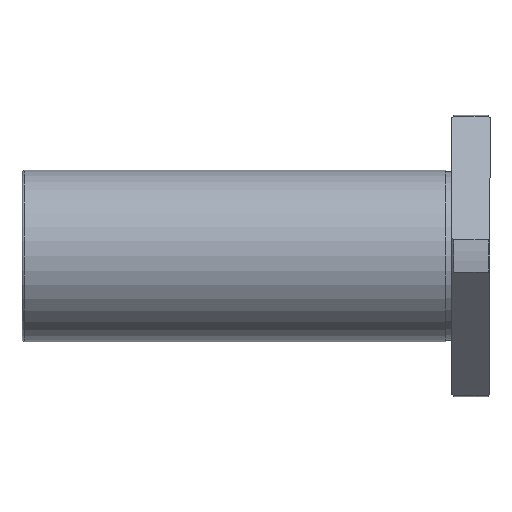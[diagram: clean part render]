
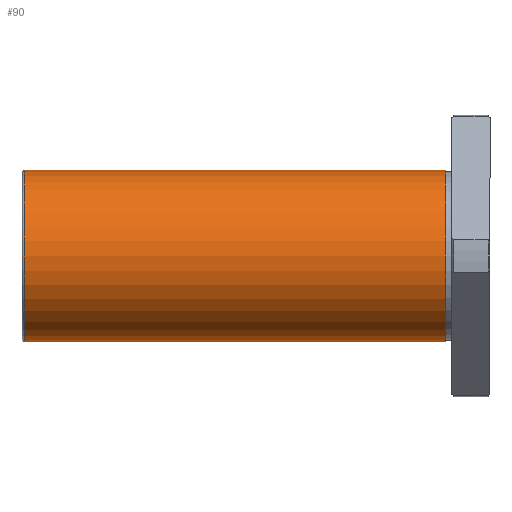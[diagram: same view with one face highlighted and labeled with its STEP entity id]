
A CAD part, front view. The second image highlights one B-rep face of the part: STEP entity #90.
In plain terms, the highlighted cylindrical face has radius 22.5 mm (diameter 45 mm), a full revolution.
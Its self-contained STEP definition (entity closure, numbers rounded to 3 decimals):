
#90=ADVANCED_FACE('',(#154,#155),#156,.T.);
#154=FACE_OUTER_BOUND('',#254,.T.);
#155=FACE_OUTER_BOUND('',#255,.T.);
#156=CYLINDRICAL_SURFACE('',#256,22.5);
#254=EDGE_LOOP('',(#424));
#255=EDGE_LOOP('',(#425));
#256=AXIS2_PLACEMENT_3D('',#426,#427,#428);
#424=ORIENTED_EDGE('',*,*,#616,.T.);
#425=ORIENTED_EDGE('',*,*,#615,.F.);
#426=CARTESIAN_POINT('',(-37.5,0.0,0.));
#427=DIRECTION('',(-1.0,-0.0,0.));
#428=DIRECTION('',(0.0,1.0,0.0));
#615=EDGE_CURVE('',#731,#731,#732,.T.);
#616=EDGE_CURVE('',#733,#733,#734,.T.);
#731=VERTEX_POINT('',#911);
#732=CIRCLE('',#912,22.5);
#733=VERTEX_POINT('',#913);
#734=CIRCLE('',#914,22.5);
#911=CARTESIAN_POINT('',(-122.4,22.5,0.));
#912=AXIS2_PLACEMENT_3D('',#1039,#1040,#1041);
#913=CARTESIAN_POINT('',(-11.6,22.5,0.));
#914=AXIS2_PLACEMENT_3D('',#1042,#1043,#1044);
#1039=CARTESIAN_POINT('',(-122.4,0.0,0.));
#1040=DIRECTION('',(-1.0,0.0,0.));
#1041=DIRECTION('',(0.0,1.0,0.0));
#1042=CARTESIAN_POINT('',(-11.6,0.0,0.));
#1043=DIRECTION('',(-1.0,0.0,0.));
#1044=DIRECTION('',(0.0,1.0,0.0));
